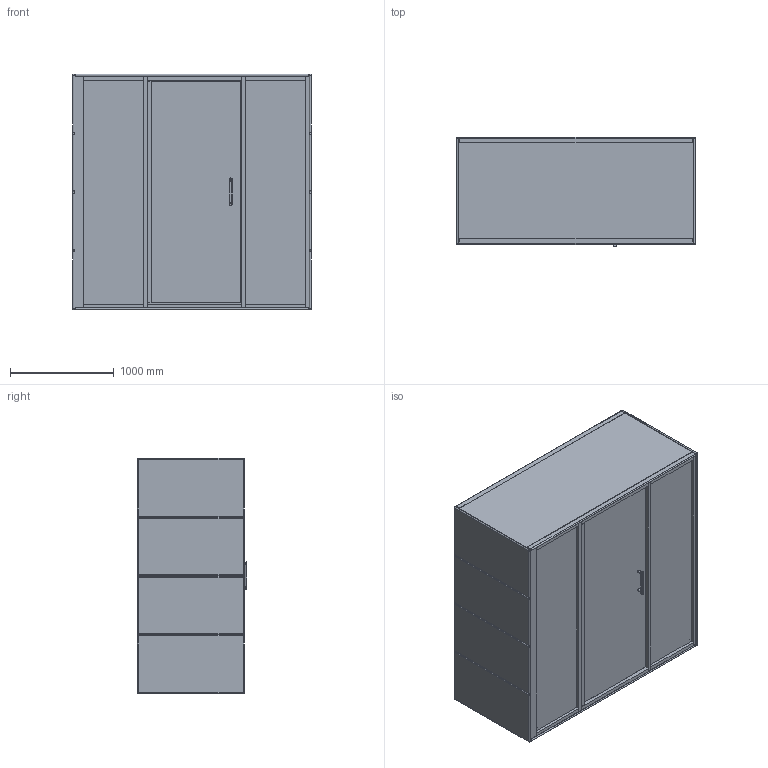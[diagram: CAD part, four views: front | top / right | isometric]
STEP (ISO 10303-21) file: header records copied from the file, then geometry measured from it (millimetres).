
FILE_DESCRIPTION(/* description */ ('','CAx-IF Rec.Pracs.---Representation and Presentation of Product Manufacturing Information (PMI)---4.0---2014-10-13'),/* implementation_level */ '2;1');
FILE_NAME(/* name */ 'CHAT2_step.step',/* time_stamp */ '2024-11-29T12:01:33+01:00',/* author */ (''),/* organization */ (''),/* preprocessor_version */ 'ST-DEVELOPER v20',/* originating_system */ 'Autodesk Translation Framework v13.20.0.188',/* authorisation */ '');
FILE_SCHEMA (('AP242_MANAGED_MODEL_BASED_3D_ENGINEERING_MIM_LF { 1 0 10303 442 1 1 4 }'));
Products named in the file (111): GEN4_SESTAVY_LANDSCAPING; Sestava_2; GEN4_CHAT2_EXPORT_FINAL_FBX v1; Singl MG3 - Strop v36 (1); Component171 (1); SINGL MG3 - podlaha v54 (1); Koberec (1); Singl obklady EX sestava v22 (1); CALL,TALK2,MEET_OBKLAD EX v45 (4); Obklad EX v7  (5); CALL,TALK2,MEET_OBKLAD EX v45 (1) (1); Obklad EX v7  (1) (2); CALL,TALK2,MEET_OBKLAD EX v45 (2) (1); Obklad EX v7  (2) (2); CALL,TALK2,MEET_OBKLAD EX v45 (3) (1); Latka (6); Obklad EX v7  (3) (2); Component2(Mirror) (3); GEN4_TALK 4_STEP v4; Obklady EX - sestava (1); Talk II obklady EX sestava v24; TALK 4_OBKLAD EX_LEM v15; SINGL Lem v4(Mirror) (1) (1); Component2(Mirror) (1) (1) (1); TALK 4_OBKLAD EX_LEM v15 (1); LATKA (2) (1); CALL Obklad in sestava v23 (1); CALL,TALK2,MEET_OBKLAD IN_SPODNÍ v25 (1); LATKA (3); CALL,TALK2,MEET_OBKLAD IN v15 (2); CALL,TALK2,MEET_OBKLAD IN v15 (1) (1); Latka (1) (2); CALL,TALK2,MEET_OBKLAD IN_HORNÍ v18 (1); LATKA (1) (1); Obklad in spodní panel v19 (1); Component5 (1) (1); Obklad in   (2); Obklad in   (1) (1); Component5(Mirror) (3); Obklad in     (1)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
Assembly tree (144 placements, depth 9):
  GEN4_SESTAVY_LANDSCAPING
    Sestava_2
      GEN4_CHAT2_EXPORT_FINAL_FBX v1
        Singl MG3 - Strop v36 (1)
          Component171 (1)
        SINGL MG3 - podlaha v54 (1)
          Koberec (1)
        Singl obklady EX sestava v22 (1)
          CALL,TALK2,MEET_OBKLAD EX v45 (4)
            Latka (6)
          Obklad EX v7  (5)
            Component2(Mirror) (3)
          CALL,TALK2,MEET_OBKLAD EX v45 (1) (1)
            Latka (6)
          Obklad EX v7  (1) (2)
            Component2(Mirror) (3)
          CALL,TALK2,MEET_OBKLAD EX v45 (2) (1)
            Latka (6)
          Obklad EX v7  (2) (2)
            Component2(Mirror) (3)
          CALL,TALK2,MEET_OBKLAD EX v45 (3) (1)
            Latka (6)
          Obklad EX v7  (3) (2)
            Component2(Mirror) (3)
          GEN4_TALK 4_STEP v4
            Obklady EX - sestava (1)
              Talk II obklady EX sestava v24
                TALK 4_OBKLAD EX_LEM v15
                  LATKA (2) (1)
                SINGL Lem v4(Mirror) (1) (1)
                  Component2(Mirror) (1) (1) (1)  x2
                TALK 4_OBKLAD EX_LEM v15 (1)
                  LATKA (2) (1)
        CALL Obklad in sestava v23 (1)
          CALL,TALK2,MEET_OBKLAD IN_SPODNÍ v25 (1)
            LATKA (3)
          CALL,TALK2,MEET_OBKLAD IN v15 (2)
            Latka (1) (2)
          CALL,TALK2,MEET_OBKLAD IN v15 (1) (1)
            Latka (1) (2)
          CALL,TALK2,MEET_OBKLAD IN_HORNÍ v18 (1)
            LATKA (1) (1)
          Obklad in spodní panel v19 (1)
            Component5 (1) (1)
          Obklad in   (2)
            Component5(Mirror) (3)
          Obklad in   (1) (1)
            Component5(Mirror) (3)
          Obklad in     (1)
            Component5(Mirror) (1) (2)
          Component474  x2
        GEN4_CHAT4_EXPORT_FINAL_Rám přední 
v1
          TALK MOG3 rám prední v6 (1)
            TALK_RAM DVERE_SKLO (1)  x2
          GEN4_CHAT2_EXPORT_FINAL_FBX_TALK_KOMPONENTY_SKLO DVERE (1) v1
          CHAT2_RAM PREDNI
            5.0-CHG4
              5.1-CHG4
              5.2-CHG4
              5.5-CHG4
Bounding box: 2296 x 1054 x 2266 mm (x, y, z)
Volume: 464608778.4 mm3; surface area: 69989376.8 mm2
Topology: 149 solids, 161 shells, 2419 faces, 5681 edges, 3630 vertices
Faces by surface type: plane 1258, cylinder 553, bspline 428, sphere 106, torus 44, cone 30
Full cylindrical faces by diameter (mm): 4 x4, 5.3 x2, 5.5 x32, 5.65 x4, 6 x4, 7 x12, 8 x2, 8.3 x2, 10 x3, 20 x10, 32 x8, 33 x8, 35 x30, 36 x4, 44.12 x4, 44.8 x2, 44.87 x2, 45.27 x2, 45.524 x2, 70 x1, 76 x1, 80 x8
Entity records: 94379 total; most frequent: CARTESIAN_POINT 50307, ORIENTED_EDGE 8798, DIRECTION 8181, EDGE_CURVE 4399, VERTEX_POINT 2835, LINE 2763, VECTOR 2763, AXIS2_PLACEMENT_3D 2709
